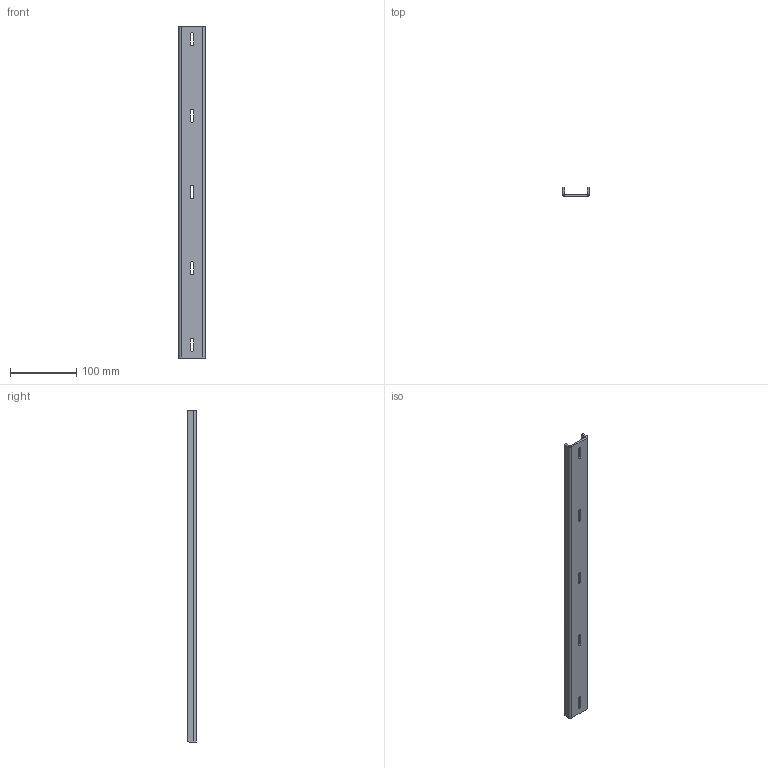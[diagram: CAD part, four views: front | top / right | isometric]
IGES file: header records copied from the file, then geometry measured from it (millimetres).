
Start section: SolidWorks IGES file using analytic representation for surfaces
Bounding box: 40 x 13 x 500 mm (x, y, z)
Surface area: 61442 mm2 (no closed solid volume)
Topology: 0 solids, 0 shells, 90 faces, 1034 edges, 1034 vertices
Faces by surface type: bspline 66, revolution 24
